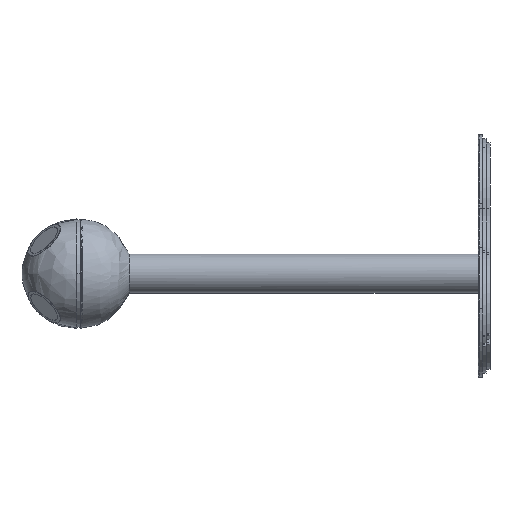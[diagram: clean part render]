
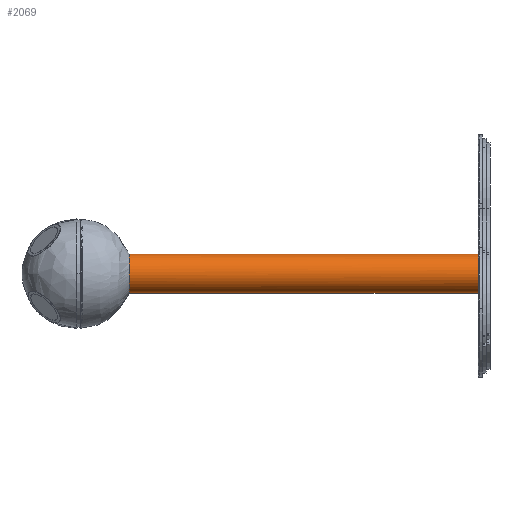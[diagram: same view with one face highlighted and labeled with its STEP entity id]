
A CAD part, left-side view. The second image highlights one B-rep face of the part: STEP entity #2069.
In plain terms, the highlighted cylindrical face has radius 25 mm (diameter 50 mm), a partial arc.
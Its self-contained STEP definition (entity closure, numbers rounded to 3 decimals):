
#10 = CARTESIAN_POINT ( 'NONE',  ( -8.839, 206.367, -23.399 ) ) ;
#48 = ORIENTED_EDGE ( 'NONE', *, *, #1198, .T. ) ;
#478 = CARTESIAN_POINT ( 'NONE',  ( 0., 206.367, 25. ) ) ;
#524 = CIRCLE ( 'NONE', #17814, 25. ) ;
#969 = EDGE_LOOP ( 'NONE', ( #3919, #48, #17195, #2405 ) ) ;
#1021 = CARTESIAN_POINT ( 'NONE',  ( -6.469, 206.367, 24.152 ) ) ;
#1121 = CARTESIAN_POINT ( 'NONE',  ( -13.541, 206.367, 21.019 ) ) ;
#1198 = EDGE_CURVE ( 'NONE', #6018, #5241, #17777, .T. ) ;
#1293 = DIRECTION ( 'NONE',  ( 0., 0., 1. ) ) ;
#1409 = CARTESIAN_POINT ( 'NONE',  ( -24.951, 206.367, -1.624 ) ) ;
#1505 = CARTESIAN_POINT ( 'NONE',  ( -21.692, 206.367, 12.535 ) ) ;
#1607 = CARTESIAN_POINT ( 'NONE',  ( -25., 206.367, -0.391 ) ) ;
#2069 = ADVANCED_FACE ( 'NONE', ( #6531 ), #17449, .T. ) ;
#2216 = AXIS2_PLACEMENT_3D ( 'NONE', #14475, #9692, #17350 ) ;
#2235 = CARTESIAN_POINT ( 'NONE',  ( -18.242, 206.367, 17.114 ) ) ;
#2405 = ORIENTED_EDGE ( 'NONE', *, *, #19337, .F. ) ;
#2547 = CARTESIAN_POINT ( 'NONE',  ( -1.631, 206.367, 25. ) ) ;
#2950 = CARTESIAN_POINT ( 'NONE',  ( -24.358, 206.367, 5.689 ) ) ;
#3041 = CARTESIAN_POINT ( 'NONE',  ( -12.524, 206.367, -21.652 ) ) ;
#3138 = CARTESIAN_POINT ( 'NONE',  ( -24.921, 206.367, -2.032 ) ) ;
#3673 = DIRECTION ( 'NONE',  ( 0., -1., 0. ) ) ;
#3775 = CARTESIAN_POINT ( 'NONE',  ( -16.512, 206.367, 18.842 ) ) ;
#3892 = CARTESIAN_POINT ( 'NONE',  ( -3.253, 206.367, 24.842 ) ) ;
#3919 = ORIENTED_EDGE ( 'NONE', *, *, #8572, .F. ) ;
#4393 = CARTESIAN_POINT ( 'NONE',  ( -21.709, 206.367, -12.506 ) ) ;
#4688 = CARTESIAN_POINT ( 'NONE',  ( -23.671, 206.367, 8.053 ) ) ;
#5241 = VERTEX_POINT ( 'NONE', #9052 ) ;
#5422 = CARTESIAN_POINT ( 'NONE',  ( -11.048, 206.367, 22.441 ) ) ;
#5839 = CARTESIAN_POINT ( 'NONE',  ( -15.252, 206.367, 19.876 ) ) ;
#5894 = CARTESIAN_POINT ( 'NONE',  ( 0., 245., 25. ) ) ;
#6018 = VERTEX_POINT ( 'NONE', #478 ) ;
#6134 = CARTESIAN_POINT ( 'NONE',  ( -24.366, 206.367, -5.654 ) ) ;
#6232 = CARTESIAN_POINT ( 'NONE',  ( -24.682, 206.367, -4.057 ) ) ;
#6531 = FACE_OUTER_BOUND ( 'NONE', #969, .T. ) ;
#6536 = CARTESIAN_POINT ( 'NONE',  ( -5.712, 206.367, -24.353 ) ) ;
#6752 = CARTESIAN_POINT ( 'NONE',  ( 0., 245., -25. ) ) ;
#6974 = CARTESIAN_POINT ( 'NONE',  ( -13.191, 206.367, 21.24 ) ) ;
#7288 = CARTESIAN_POINT ( 'NONE',  ( -10.311, 206.367, 22.789 ) ) ;
#7667 = CARTESIAN_POINT ( 'NONE',  ( -15.28, 206.367, -19.855 ) ) ;
#7724 = VECTOR ( 'NONE', #16818, 1000. ) ;
#7769 = CARTESIAN_POINT ( 'NONE',  ( -13.235, 206.367, -21.225 ) ) ;
#8490 = CARTESIAN_POINT ( 'NONE',  ( -18.792, 206.367, 16.509 ) ) ;
#8572 = EDGE_CURVE ( 'NONE', #6018, #18309, #19885, .T. ) ;
#8588 = CARTESIAN_POINT ( 'NONE',  ( -8.807, 206.367, 23.411 ) ) ;
#8900 = CARTESIAN_POINT ( 'NONE',  ( -8.039, 206.367, 23.686 ) ) ;
#8997 = CARTESIAN_POINT ( 'NONE',  ( -24.836, 206.367, 3.292 ) ) ;
#9052 = CARTESIAN_POINT ( 'NONE',  ( 0., 206.367, -25. ) ) ;
#9194 = CARTESIAN_POINT ( 'NONE',  ( -16.537, 206.367, -18.82 ) ) ;
#9285 = CARTESIAN_POINT ( 'NONE',  ( -24.99, 206.367, -0.804 ) ) ;
#9496 = CARTESIAN_POINT ( 'NONE',  ( -6.51, 206.367, -24.151 ) ) ;
#9692 = DIRECTION ( 'NONE',  ( 0., -1., 0. ) ) ;
#10136 = CARTESIAN_POINT ( 'NONE',  ( -6.864, 206.367, 24.043 ) ) ;
#10524 = CARTESIAN_POINT ( 'NONE',  ( -22.476, 206.367, -11.07 ) ) ;
#10611 = CARTESIAN_POINT ( 'NONE',  ( -20.351, 206.367, -14.543 ) ) ;
#11126 = CARTESIAN_POINT ( 'NONE',  ( -8.073, 206.367, -23.675 ) ) ;
#11656 = CARTESIAN_POINT ( 'NONE',  ( -19.83, 206.367, 15.23 ) ) ;
#11965 = CARTESIAN_POINT ( 'NONE',  ( -12.13, 206.367, 21.864 ) ) ;
#12071 = CARTESIAN_POINT ( 'NONE',  ( -23.695, 206.367, -8.014 ) ) ;
#12176 = CARTESIAN_POINT ( 'NONE',  ( -23.801, 206.367, 7.661 ) ) ;
#12262 = CARTESIAN_POINT ( 'NONE',  ( -20.556, 206.367, 14.234 ) ) ;
#12378 = CARTESIAN_POINT ( 'NONE',  ( -18.817, 206.367, -16.48 ) ) ;
#13191 = CARTESIAN_POINT ( 'NONE',  ( -19.575, 206.367, 15.556 ) ) ;
#13401 = CARTESIAN_POINT ( 'NONE',  ( 0., 206.367, 25. ) ) ;
#13474 = CARTESIAN_POINT ( 'NONE',  ( 0., -240., 0. ) ) ;
#13698 = CARTESIAN_POINT ( 'NONE',  ( -24.159, 206.367, 6.481 ) ) ;
#13789 = CARTESIAN_POINT ( 'NONE',  ( -23.393, 206.367, 8.828 ) ) ;
#13831 = CARTESIAN_POINT ( 'NONE',  ( 0., -240., -25. ) ) ;
#13991 = CARTESIAN_POINT ( 'NONE',  ( -10.343, 206.367, -22.775 ) ) ;
#14284 = CARTESIAN_POINT ( 'NONE',  ( 0., 206.367, -25. ) ) ;
#14349 = EDGE_CURVE ( 'NONE', #5241, #17088, #17188, .T. ) ;
#14475 = CARTESIAN_POINT ( 'NONE',  ( 0., 245., 0. ) ) ;
#14526 = CARTESIAN_POINT ( 'NONE',  ( 0., -240., 25. ) ) ;
#15021 = CARTESIAN_POINT ( 'NONE',  ( -5.266, 206.367, 24.442 ) ) ;
#15116 = CARTESIAN_POINT ( 'NONE',  ( -12.486, 206.367, 21.662 ) ) ;
#15177 = DIRECTION ( 'NONE',  ( 0., -1., 0. ) ) ;
#15209 = CARTESIAN_POINT ( 'NONE',  ( -24.801, 206.367, -3.251 ) ) ;
#15500 = CARTESIAN_POINT ( 'NONE',  ( -11.08, 206.367, -22.426 ) ) ;
#15610 = CARTESIAN_POINT ( 'NONE',  ( -23.245, 206.367, 9.211 ) ) ;
#15706 = CARTESIAN_POINT ( 'NONE',  ( -3.286, 206.367, -24.838 ) ) ;
#16016 = VECTOR ( 'NONE', #3673, 1000. ) ;
#16246 = CARTESIAN_POINT ( 'NONE',  ( -5.669, 206.367, 24.352 ) ) ;
#16767 = CARTESIAN_POINT ( 'NONE',  ( -19.863, 206.367, -15.203 ) ) ;
#16818 = DIRECTION ( 'NONE',  ( 0., -1., 0. ) ) ;
#16966 = CARTESIAN_POINT ( 'NONE',  ( -22.46, 206.367, 11.1 ) ) ;
#17060 = CARTESIAN_POINT ( 'NONE',  ( -18.267, 206.367, -17.088 ) ) ;
#17088 = VERTEX_POINT ( 'NONE', #13831 ) ;
#17188 = LINE ( 'NONE', #6752, #16016 ) ;
#17195 = ORIENTED_EDGE ( 'NONE', *, *, #14349, .T. ) ;
#17350 = DIRECTION ( 'NONE',  ( 0., 0., -1. ) ) ;
#17360 = CARTESIAN_POINT ( 'NONE',  ( -1.651, 206.367, -25. ) ) ;
#17449 = CYLINDRICAL_SURFACE ( 'NONE', #2216, 25. ) ;
#17777 = B_SPLINE_CURVE_WITH_KNOTS ( 'NONE', 3,
 ( #13401, #2547, #3892, #15021, #16246, #1021, #10136, #8900, #8588, #7288, #5422, #11965, #15116, #6974, #1121, #5839, #3775, #2235, #8490, #13191, #11656, #18702, #12262, #1505, #16966, #15610, #13789, #4688, #12176, #13698, #2950, #8997, #20112, #1607, #9285, #1409, #3138, #15209, #6232, #6134, #18600, #12071, #18297, #10524, #4393, #10611, #16767, #12378, #17060, #9194, #7667, #7769, #3041, #15500, #13991, #10, #11126, #9496, #6536, #15706, #17360, #14284 ),
 .UNSPECIFIED., .F., .F.,
 ( 4, 2, 2, 2, 2, 2, 2, 2, 2, 2, 2, 2, 2, 2, 2, 2, 2, 2, 2, 2, 2, 2, 2, 2, 2, 2, 2, 2, 2, 2, 4 ),
 ( 0.078, 0.083, 0.084, 0.085, 0.088, 0.09, 0.092, 0.093, 0.098, 0.1, 0.101, 0.103, 0.107, 0.109, 0.11, 0.112, 0.117, 0.118, 0.12, 0.122, 0.125, 0.127, 0.132, 0.134, 0.137, 0.142, 0.144, 0.147, 0.149, 0.151, 0.156 ),
 .UNSPECIFIED. ) ;
#17814 = AXIS2_PLACEMENT_3D ( 'NONE', #13474, #15177, #1293 ) ;
#18297 = CARTESIAN_POINT ( 'NONE',  ( -23.416, 206.367, -8.795 ) ) ;
#18309 = VERTEX_POINT ( 'NONE', #14526 ) ;
#18600 = CARTESIAN_POINT ( 'NONE',  ( -24.169, 206.367, -6.446 ) ) ;
#18702 = CARTESIAN_POINT ( 'NONE',  ( -20.32, 206.367, 14.569 ) ) ;
#19337 = EDGE_CURVE ( 'NONE', #18309, #17088, #524, .T. ) ;
#19885 = LINE ( 'NONE', #5894, #7724 ) ;
#20112 = CARTESIAN_POINT ( 'NONE',  ( -24.999, 206.367, 1.669 ) ) ;
